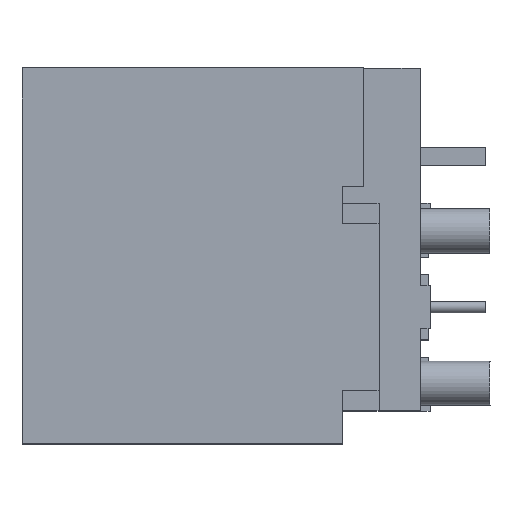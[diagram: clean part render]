
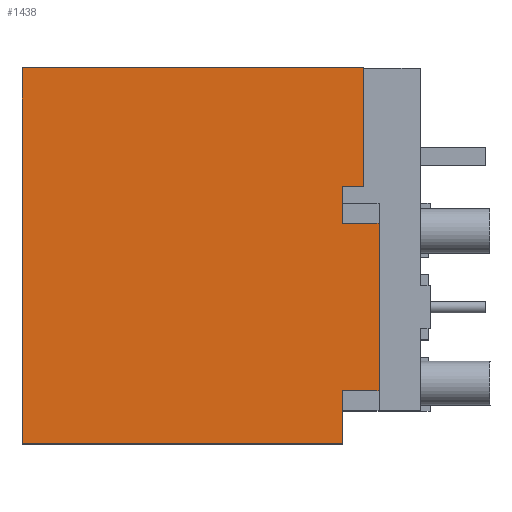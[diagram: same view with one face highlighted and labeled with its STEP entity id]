
A CAD part, top view. The second image highlights one B-rep face of the part: STEP entity #1438.
In plain terms, the highlighted planar face has unit normal (0, 0, 1).
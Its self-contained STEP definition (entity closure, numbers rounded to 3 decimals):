
#1370=AXIS2_PLACEMENT_3D('Plane Axis2P3D',#1367,#1368,#1369) ;
#1058=CARTESIAN_POINT('Vertex',(-9.,-4.8,6.7)) ;
#1061=CARTESIAN_POINT('Line Origine',(-9.,1.8,6.7)) ;
#1065=CARTESIAN_POINT('Vertex',(-9.,8.4,6.7)) ;
#1351=CARTESIAN_POINT('Vertex',(2.25,-4.8,6.7)) ;
#1354=CARTESIAN_POINT('Line Origine',(-3.375,-4.8,6.7)) ;
#1367=CARTESIAN_POINT('Axis2P3D Location',(0.,8.4,6.7)) ;
#1372=CARTESIAN_POINT('Line Origine',(2.9,-2.95,6.7)) ;
#1376=CARTESIAN_POINT('Vertex',(2.25,-2.95,6.7)) ;
#1378=CARTESIAN_POINT('Vertex',(3.55,-2.95,6.7)) ;
#1381=CARTESIAN_POINT('Line Origine',(3.55,0.,6.7)) ;
#1385=CARTESIAN_POINT('Vertex',(3.55,2.95,6.7)) ;
#1388=CARTESIAN_POINT('Line Origine',(2.9,2.95,6.7)) ;
#1392=CARTESIAN_POINT('Vertex',(2.25,2.95,6.7)) ;
#1395=CARTESIAN_POINT('Line Origine',(2.25,3.6,6.7)) ;
#1399=CARTESIAN_POINT('Vertex',(2.25,4.25,6.7)) ;
#1402=CARTESIAN_POINT('Line Origine',(2.625,4.25,6.7)) ;
#1406=CARTESIAN_POINT('Vertex',(3.,4.25,6.7)) ;
#1409=CARTESIAN_POINT('Line Origine',(3.,6.325,6.7)) ;
#1413=CARTESIAN_POINT('Vertex',(3.,8.4,6.7)) ;
#1416=CARTESIAN_POINT('Line Origine',(-3.,8.4,6.7)) ;
#1421=CARTESIAN_POINT('Line Origine',(2.25,-3.875,6.7)) ;
#1062=DIRECTION('Vector Direction',(0.,-1.,0.)) ;
#1355=DIRECTION('Vector Direction',(-1.,0.,0.)) ;
#1368=DIRECTION('Axis2P3D Direction',(0.,0.,-1.)) ;
#1369=DIRECTION('Axis2P3D XDirection',(0.,-1.,0.)) ;
#1373=DIRECTION('Vector Direction',(1.,0.,0.)) ;
#1382=DIRECTION('Vector Direction',(0.,1.,0.)) ;
#1389=DIRECTION('Vector Direction',(1.,0.,0.)) ;
#1396=DIRECTION('Vector Direction',(0.,-1.,0.)) ;
#1403=DIRECTION('Vector Direction',(1.,0.,0.)) ;
#1410=DIRECTION('Vector Direction',(0.,-1.,0.)) ;
#1417=DIRECTION('Vector Direction',(-1.,0.,0.)) ;
#1422=DIRECTION('Vector Direction',(0.,-1.,0.)) ;
#1063=VECTOR('Line Direction',#1062,1.) ;
#1356=VECTOR('Line Direction',#1355,1.) ;
#1374=VECTOR('Line Direction',#1373,1.) ;
#1383=VECTOR('Line Direction',#1382,1.) ;
#1390=VECTOR('Line Direction',#1389,1.) ;
#1397=VECTOR('Line Direction',#1396,1.) ;
#1404=VECTOR('Line Direction',#1403,1.) ;
#1411=VECTOR('Line Direction',#1410,1.) ;
#1418=VECTOR('Line Direction',#1417,1.) ;
#1423=VECTOR('Line Direction',#1422,1.) ;
#1427=ORIENTED_EDGE('',*,*,#1380,.T.) ;
#1428=ORIENTED_EDGE('',*,*,#1387,.T.) ;
#1429=ORIENTED_EDGE('',*,*,#1394,.F.) ;
#1430=ORIENTED_EDGE('',*,*,#1401,.F.) ;
#1431=ORIENTED_EDGE('',*,*,#1408,.T.) ;
#1432=ORIENTED_EDGE('',*,*,#1415,.F.) ;
#1433=ORIENTED_EDGE('',*,*,#1420,.T.) ;
#1434=ORIENTED_EDGE('',*,*,#1067,.T.) ;
#1435=ORIENTED_EDGE('',*,*,#1358,.F.) ;
#1436=ORIENTED_EDGE('',*,*,#1425,.F.) ;
#1438=ADVANCED_FACE('6099-1562',(#1437),#1371,.F.) ;
#1067=EDGE_CURVE('',#1066,#1059,#1064,.T.) ;
#1358=EDGE_CURVE('',#1352,#1059,#1357,.T.) ;
#1380=EDGE_CURVE('',#1377,#1379,#1375,.T.) ;
#1387=EDGE_CURVE('',#1379,#1386,#1384,.T.) ;
#1394=EDGE_CURVE('',#1393,#1386,#1391,.T.) ;
#1401=EDGE_CURVE('',#1400,#1393,#1398,.T.) ;
#1408=EDGE_CURVE('',#1400,#1407,#1405,.T.) ;
#1415=EDGE_CURVE('',#1414,#1407,#1412,.T.) ;
#1420=EDGE_CURVE('',#1414,#1066,#1419,.T.) ;
#1425=EDGE_CURVE('',#1377,#1352,#1424,.T.) ;
#1426=EDGE_LOOP('',(#1427,#1428,#1429,#1430,#1431,#1432,#1433,#1434,#1435,#1436)) ;
#1437=FACE_OUTER_BOUND('',#1426,.T.) ;
#1064=LINE('Line',#1061,#1063) ;
#1357=LINE('Line',#1354,#1356) ;
#1375=LINE('Line',#1372,#1374) ;
#1384=LINE('Line',#1381,#1383) ;
#1391=LINE('Line',#1388,#1390) ;
#1398=LINE('Line',#1395,#1397) ;
#1405=LINE('Line',#1402,#1404) ;
#1412=LINE('Line',#1409,#1411) ;
#1419=LINE('Line',#1416,#1418) ;
#1424=LINE('Line',#1421,#1423) ;
#1371=PLANE('',#1370) ;
#1059=VERTEX_POINT('',#1058) ;
#1066=VERTEX_POINT('',#1065) ;
#1352=VERTEX_POINT('',#1351) ;
#1377=VERTEX_POINT('',#1376) ;
#1379=VERTEX_POINT('',#1378) ;
#1386=VERTEX_POINT('',#1385) ;
#1393=VERTEX_POINT('',#1392) ;
#1400=VERTEX_POINT('',#1399) ;
#1407=VERTEX_POINT('',#1406) ;
#1414=VERTEX_POINT('',#1413) ;
